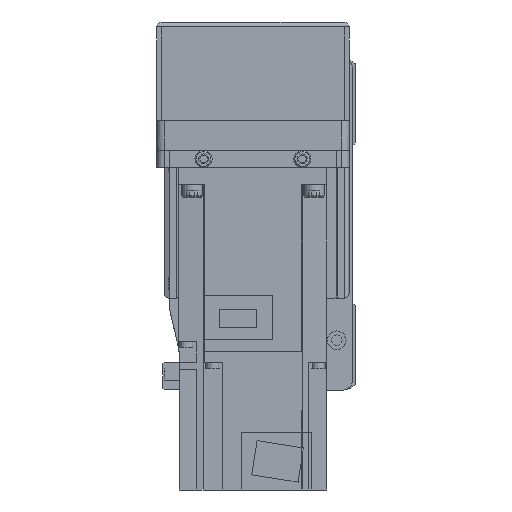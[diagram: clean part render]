
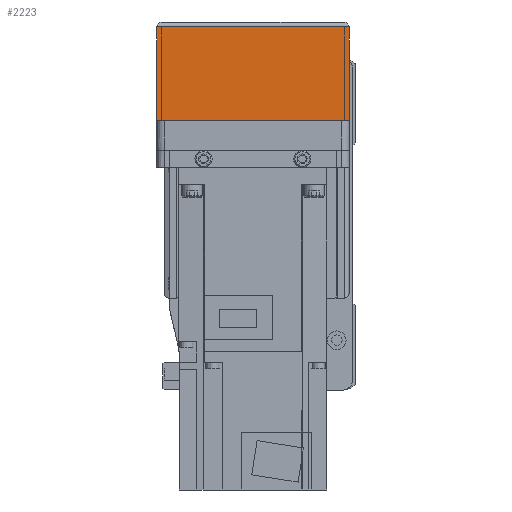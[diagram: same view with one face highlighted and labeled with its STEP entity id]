
A CAD part, left-side view. The second image highlights one B-rep face of the part: STEP entity #2223.
In plain terms, the highlighted planar face has unit normal (-1, 0, 0).
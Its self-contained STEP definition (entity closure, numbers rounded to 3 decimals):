
#2223 = ADVANCED_FACE( '', ( #5196 ), #5197, .F. );
#5196 = FACE_OUTER_BOUND( '', #8999, .T. );
#5197 = PLANE( '', #9000 );
#8999 = EDGE_LOOP( '', ( #15242, #15243, #15244, #15245 ) );
#9000 = AXIS2_PLACEMENT_3D( '', #15246, #15247, #15248 );
#15242 = ORIENTED_EDGE( '', *, *, #22339, .F. );
#15243 = ORIENTED_EDGE( '', *, *, #23221, .F. );
#15244 = ORIENTED_EDGE( '', *, *, #23138, .T. );
#15245 = ORIENTED_EDGE( '', *, *, #22273, .F. );
#15246 = CARTESIAN_POINT( '', ( -158., 36., 7. ) );
#15247 = DIRECTION( '', ( 1., 0., 0. ) );
#15248 = DIRECTION( '', ( 0., 0., -1. ) );
#22273 = EDGE_CURVE( '', #26968, #26970, #26971, .T. );
#22339 = EDGE_CURVE( '', #24874, #26968, #27074, .T. );
#23138 = EDGE_CURVE( '', #27718, #26970, #28308, .T. );
#23221 = EDGE_CURVE( '', #27718, #24874, #28429, .T. );
#24874 = VERTEX_POINT( '', #30550 );
#26968 = VERTEX_POINT( '', #34057 );
#26970 = VERTEX_POINT( '', #34060 );
#26971 = LINE( '', #34061, #34062 );
#27074 = LINE( '', #34205, #34206 );
#27718 = VERTEX_POINT( '', #35217 );
#28308 = LINE( '', #36161, #36162 );
#28429 = LINE( '', #36336, #36337 );
#30550 = CARTESIAN_POINT( '', ( -158., 39., -12.1 ) );
#34057 = CARTESIAN_POINT( '', ( -158., -39., -12.1 ) );
#34060 = CARTESIAN_POINT( '', ( -158., -39., -50. ) );
#34061 = CARTESIAN_POINT( '', ( -158., -39., -12.1 ) );
#34062 = VECTOR( '', #41233, 1000. );
#34205 = CARTESIAN_POINT( '', ( -158., 50., -12.1 ) );
#34206 = VECTOR( '', #41330, 1000. );
#35217 = CARTESIAN_POINT( '', ( -158., 39., -50. ) );
#36161 = CARTESIAN_POINT( '', ( -158., 40., -50. ) );
#36162 = VECTOR( '', #42242, 1000. );
#36336 = CARTESIAN_POINT( '', ( -158., 39., -50. ) );
#36337 = VECTOR( '', #42327, 1000. );
#41233 = DIRECTION( '', ( 0., 0., -1. ) );
#41330 = DIRECTION( '', ( 0., -1., 0. ) );
#42242 = DIRECTION( '', ( 0., -1., 0. ) );
#42327 = DIRECTION( '', ( 0., 0., 1. ) );
